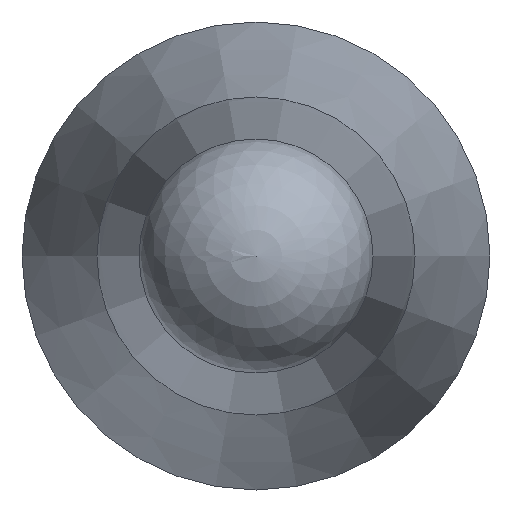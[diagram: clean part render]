
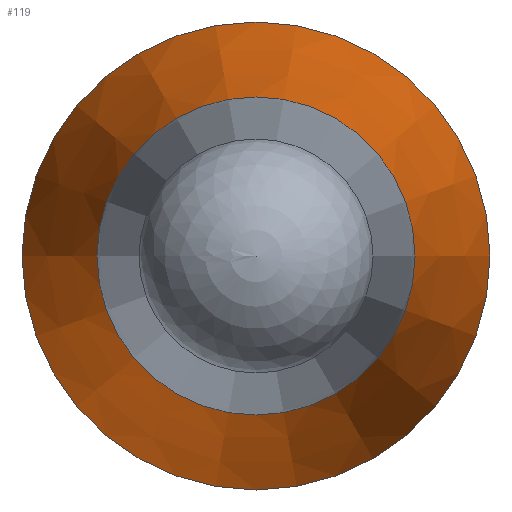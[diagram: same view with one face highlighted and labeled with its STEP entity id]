
A CAD part, left-side view. The second image highlights one B-rep face of the part: STEP entity #119.
In plain terms, the highlighted conical face has half-angle 12 degrees and reference radius 3 mm.
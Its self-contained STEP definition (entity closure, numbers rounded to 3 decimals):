
#97=CONICAL_SURFACE('',#194,3.,12.);
#106=FACE_BOUND('',#134,.T.);
#107=FACE_BOUND('',#135,.T.);
#119=ADVANCED_FACE('',(#106,#107),#97,.T.);
#134=EDGE_LOOP('',(#150));
#135=EDGE_LOOP('',(#151));
#150=ORIENTED_EDGE('',*,*,#172,.F.);
#151=ORIENTED_EDGE('',*,*,#173,.T.);
#164=VERTEX_POINT('',#249);
#165=VERTEX_POINT('',#252);
#172=EDGE_CURVE('',#164,#164,#180,.T.);
#173=EDGE_CURVE('',#165,#165,#181,.T.);
#180=CIRCLE('',#191,2.039);
#181=CIRCLE('',#193,3.);
#191=AXIS2_PLACEMENT_3D('',#248,#215,#216);
#193=AXIS2_PLACEMENT_3D('',#251,#219,#220);
#194=AXIS2_PLACEMENT_3D('',#253,#221,#222);
#215=DIRECTION('',(-1.,0.,0.));
#216=DIRECTION('',(0.,-1.,0.));
#219=DIRECTION('',(-1.,0.,0.));
#220=DIRECTION('',(0.,-1.,0.));
#221=DIRECTION('',(1.,0.,0.));
#222=DIRECTION('',(0.,1.,0.));
#248=CARTESIAN_POINT('',(7933.912,6103.288,0.));
#249=CARTESIAN_POINT('',(7933.912,6101.249,0.));
#251=CARTESIAN_POINT('',(7938.432,6103.288,0.));
#252=CARTESIAN_POINT('',(7938.432,6100.288,0.));
#253=CARTESIAN_POINT('',(7938.432,6103.288,0.));
